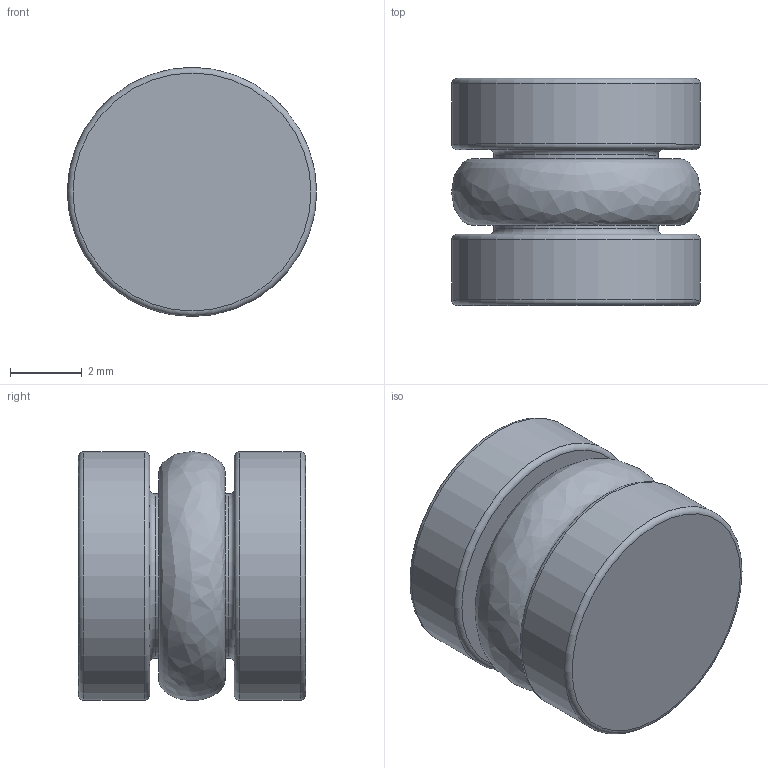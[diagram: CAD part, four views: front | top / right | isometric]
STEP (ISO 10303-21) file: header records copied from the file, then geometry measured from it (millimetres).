
FILE_DESCRIPTION(/* description */ (''),/* implementation_level */ '2;1');
FILE_NAME(/* name */ 'C:/Users/drich/Desktop/OR-281 v1.step',/* time_stamp */ '2019-12-29T16:45:50-06:00',/* author */ (''),/* organization */ (''),/* preprocessor_version */ 'ST-DEVELOPER v18',/* originating_system */ 'Autodesk Translation Framework v8.12.0.6',/* authorisation */ '');
FILE_SCHEMA (('AP203_CONFIGURATION_CONTROLLED_3D_DESIGN_OF_MECHANICAL_PARTS_AND_ASSEMBLIES_MIM_LF { 1 0 10303 203 3 1 4 }','AUTOMOTIVE_DESIGN { 1 0 10303 214 3 1 1 }'));
Length unit declared in the file: inch
Products named in the file (1): OR-281
Bounding box: 6.93 x 6.32 x 6.93 mm (x, y, z)
Volume: 193.3 mm3; surface area: 350.1 mm2
Topology: 2 solids, 2 shells, 17 faces, 45 edges, 32 vertices
Faces by surface type: torus 6, cylinder 4, plane 4, cone 2, bspline 1
Full cylindrical faces by diameter (mm): 2.769 x1, 4.572 x1, 6.934 x2
Entity records: 681 total; most frequent: CARTESIAN_POINT 174, DIRECTION 116, ORIENTED_EDGE 88, AXIS2_PLACEMENT_3D 55, EDGE_CURVE 44, CIRCLE 37, VERTEX_POINT 32, EDGE_LOOP 20
